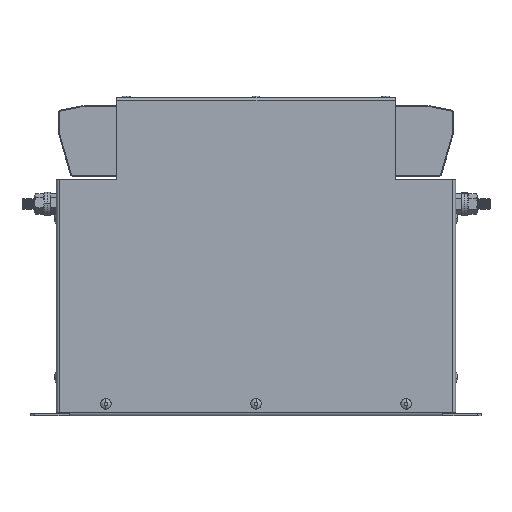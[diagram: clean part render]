
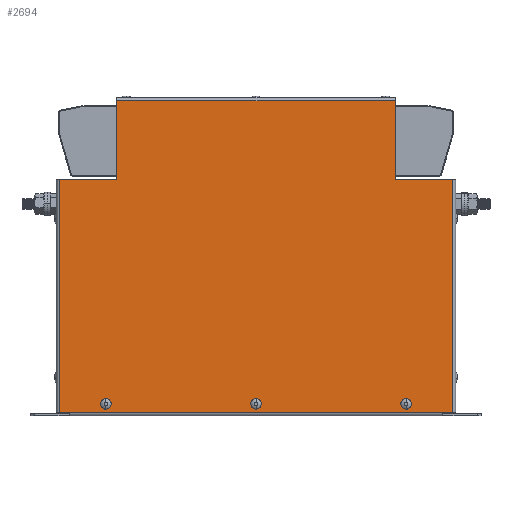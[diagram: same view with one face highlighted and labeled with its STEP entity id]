
A CAD part, top view. The second image highlights one B-rep face of the part: STEP entity #2694.
In plain terms, the highlighted planar face has unit normal (0, 0, 1).
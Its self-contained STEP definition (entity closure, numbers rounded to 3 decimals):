
#31 = FACE_BOUND ( 'NONE', #7901, .T. ) ;
#442 = FACE_OUTER_BOUND ( 'NONE', #16042, .T. ) ;
#822 = EDGE_CURVE ( 'NONE', #2332, #8259, #2920, .T. ) ;
#1026 = ORIENTED_EDGE ( 'NONE', *, *, #3641, .T. ) ;
#1053 = ORIENTED_EDGE ( 'NONE', *, *, #8649, .T. ) ;
#1114 = EDGE_CURVE ( 'NONE', #1203, #15948, #4770, .T. ) ;
#1140 = VERTEX_POINT ( 'NONE', #2085 ) ;
#1203 = VERTEX_POINT ( 'NONE', #12878 ) ;
#1769 = VERTEX_POINT ( 'NONE', #9784 ) ;
#1949 = DIRECTION ( 'NONE',  ( 0., 0., -1. ) ) ;
#1962 = CARTESIAN_POINT ( 'NONE',  ( 111.8, 43.55, 0. ) ) ;
#2085 = CARTESIAN_POINT ( 'NONE',  ( 78.8, 43.55, 0. ) ) ;
#2265 = EDGE_CURVE ( 'NONE', #10323, #1769, #3110, .T. ) ;
#2332 = VERTEX_POINT ( 'NONE', #13729 ) ;
#2523 = CARTESIAN_POINT ( 'NONE',  ( -82.25, -83.55, 0. ) ) ;
#2572 = CARTESIAN_POINT ( 'NONE',  ( 0., -83.55, 0. ) ) ;
#2621 = AXIS2_PLACEMENT_3D ( 'NONE', #11075, #11129, #12517 ) ;
#2694 = ADVANCED_FACE ( 'NONE', ( #10888, #31, #6542, #442 ), #9834, .T. ) ;
#2920 = LINE ( 'NONE', #7978, #15265 ) ;
#3075 = LINE ( 'NONE', #13475, #7745 ) ;
#3095 = CARTESIAN_POINT ( 'NONE',  ( -78.8, 88.05, 0. ) ) ;
#3110 = CIRCLE ( 'NONE', #6968, 2.75 ) ;
#3203 = CIRCLE ( 'NONE', #4906, 2.75 ) ;
#3334 = DIRECTION ( 'NONE',  ( 1., 0., 0. ) ) ;
#3402 = VECTOR ( 'NONE', #5319, 1000. ) ;
#3445 = EDGE_LOOP ( 'NONE', ( #11752, #4489 ) ) ;
#3641 = EDGE_CURVE ( 'NONE', #9114, #7742, #10858, .T. ) ;
#3793 = CARTESIAN_POINT ( 'NONE',  ( -111.3, 43.55, 0. ) ) ;
#3809 = AXIS2_PLACEMENT_3D ( 'NONE', #15246, #8462, #3334 ) ;
#3828 = LINE ( 'NONE', #6472, #9748 ) ;
#3976 = DIRECTION ( 'NONE',  ( 1., 0., 0. ) ) ;
#4088 = AXIS2_PLACEMENT_3D ( 'NONE', #9518, #8252, #13593 ) ;
#4141 = VERTEX_POINT ( 'NONE', #16495 ) ;
#4489 = ORIENTED_EDGE ( 'NONE', *, *, #1114, .T. ) ;
#4640 = DIRECTION ( 'NONE',  ( 1., 0., 0. ) ) ;
#4770 = CIRCLE ( 'NONE', #3809, 2.75 ) ;
#4800 = CARTESIAN_POINT ( 'NONE',  ( -87.75, -83.55, 0. ) ) ;
#4822 = ORIENTED_EDGE ( 'NONE', *, *, #8080, .T. ) ;
#4906 = AXIS2_PLACEMENT_3D ( 'NONE', #10952, #5785, #16383 ) ;
#5075 = VECTOR ( 'NONE', #4640, 1000. ) ;
#5319 = DIRECTION ( 'NONE',  ( 0., 1., 0. ) ) ;
#5351 = DIRECTION ( 'NONE',  ( 0., 0., -1. ) ) ;
#5580 = DIRECTION ( 'NONE',  ( 0., -1., 0. ) ) ;
#5614 = CARTESIAN_POINT ( 'NONE',  ( -111.8, -88.55, 0. ) ) ;
#5630 = CIRCLE ( 'NONE', #4088, 2.75 ) ;
#5781 = VERTEX_POINT ( 'NONE', #8823 ) ;
#5785 = DIRECTION ( 'NONE',  ( 0., 0., -1. ) ) ;
#6472 = CARTESIAN_POINT ( 'NONE',  ( -111.8, 43.55, 0. ) ) ;
#6542 = FACE_BOUND ( 'NONE', #3445, .T. ) ;
#6676 = DIRECTION ( 'NONE',  ( -1., 0., 0. ) ) ;
#6952 = CIRCLE ( 'NONE', #12934, 2.75 ) ;
#6968 = AXIS2_PLACEMENT_3D ( 'NONE', #15054, #1949, #16550 ) ;
#6998 = LINE ( 'NONE', #5614, #14038 ) ;
#7542 = ORIENTED_EDGE ( 'NONE', *, *, #16971, .T. ) ;
#7742 = VERTEX_POINT ( 'NONE', #16847 ) ;
#7745 = VECTOR ( 'NONE', #5580, 1000. ) ;
#7771 = CARTESIAN_POINT ( 'NONE',  ( -78.8, 88.55, 0. ) ) ;
#7793 = VECTOR ( 'NONE', #10351, 1000. ) ;
#7901 = EDGE_LOOP ( 'NONE', ( #1053, #14965 ) ) ;
#7926 = VECTOR ( 'NONE', #8761, 1000. ) ;
#7978 = CARTESIAN_POINT ( 'NONE',  ( 78.8, 88.05, 0. ) ) ;
#8080 = EDGE_CURVE ( 'NONE', #14522, #10981, #6952, .T. ) ;
#8252 = DIRECTION ( 'NONE',  ( 0., 0., -1. ) ) ;
#8259 = VERTEX_POINT ( 'NONE', #3095 ) ;
#8443 = ORIENTED_EDGE ( 'NONE', *, *, #9423, .F. ) ;
#8462 = DIRECTION ( 'NONE',  ( 0., 0., -1. ) ) ;
#8649 = EDGE_CURVE ( 'NONE', #1769, #10323, #14173, .T. ) ;
#8663 = VERTEX_POINT ( 'NONE', #10630 ) ;
#8761 = DIRECTION ( 'NONE',  ( 0., -1., 0. ) ) ;
#8762 = EDGE_CURVE ( 'NONE', #2332, #1140, #3075, .T. ) ;
#8823 = CARTESIAN_POINT ( 'NONE',  ( 111.3, -88.55, 0. ) ) ;
#9114 = VERTEX_POINT ( 'NONE', #9320 ) ;
#9320 = CARTESIAN_POINT ( 'NONE',  ( -111.3, 43.55, 0. ) ) ;
#9336 = ORIENTED_EDGE ( 'NONE', *, *, #8762, .F. ) ;
#9423 = EDGE_CURVE ( 'NONE', #1140, #4141, #16833, .T. ) ;
#9518 = CARTESIAN_POINT ( 'NONE',  ( 85., -83.55, 0. ) ) ;
#9574 = AXIS2_PLACEMENT_3D ( 'NONE', #2572, #5351, #14567 ) ;
#9748 = VECTOR ( 'NONE', #3976, 1000. ) ;
#9784 = CARTESIAN_POINT ( 'NONE',  ( 2.75, -83.55, 0. ) ) ;
#9834 = PLANE ( 'NONE',  #2621 ) ;
#10323 = VERTEX_POINT ( 'NONE', #12476 ) ;
#10351 = DIRECTION ( 'NONE',  ( 0., 1., 0. ) ) ;
#10630 = CARTESIAN_POINT ( 'NONE',  ( -78.8, 43.55, 0. ) ) ;
#10647 = DIRECTION ( 'NONE',  ( 1., 0., 0. ) ) ;
#10779 = DIRECTION ( 'NONE',  ( 1., 0., 0. ) ) ;
#10854 = EDGE_CURVE ( 'NONE', #10981, #14522, #3203, .T. ) ;
#10858 = LINE ( 'NONE', #3793, #7926 ) ;
#10888 = FACE_BOUND ( 'NONE', #12459, .T. ) ;
#10952 = CARTESIAN_POINT ( 'NONE',  ( -85., -83.55, 0. ) ) ;
#10981 = VERTEX_POINT ( 'NONE', #4800 ) ;
#11075 = CARTESIAN_POINT ( 'NONE',  ( 0., 0., 0. ) ) ;
#11129 = DIRECTION ( 'NONE',  ( 0., 0., 1. ) ) ;
#11380 = ORIENTED_EDGE ( 'NONE', *, *, #822, .T. ) ;
#11752 = ORIENTED_EDGE ( 'NONE', *, *, #14733, .T. ) ;
#11874 = CARTESIAN_POINT ( 'NONE',  ( 87.75, -83.55, 0. ) ) ;
#12435 = ORIENTED_EDGE ( 'NONE', *, *, #13314, .F. ) ;
#12459 = EDGE_LOOP ( 'NONE', ( #4822, #14249 ) ) ;
#12476 = CARTESIAN_POINT ( 'NONE',  ( -2.75, -83.55, 0. ) ) ;
#12517 = DIRECTION ( 'NONE',  ( 1., 0., 0. ) ) ;
#12620 = EDGE_CURVE ( 'NONE', #7742, #5781, #6998, .T. ) ;
#12804 = ORIENTED_EDGE ( 'NONE', *, *, #12620, .T. ) ;
#12878 = CARTESIAN_POINT ( 'NONE',  ( 82.25, -83.55, 0. ) ) ;
#12934 = AXIS2_PLACEMENT_3D ( 'NONE', #14819, #16139, #10647 ) ;
#13044 = CARTESIAN_POINT ( 'NONE',  ( 111.3, -88.55, 0. ) ) ;
#13314 = EDGE_CURVE ( 'NONE', #9114, #8663, #3828, .T. ) ;
#13475 = CARTESIAN_POINT ( 'NONE',  ( 78.8, 88.55, 0. ) ) ;
#13593 = DIRECTION ( 'NONE',  ( 1., 0., 0. ) ) ;
#13729 = CARTESIAN_POINT ( 'NONE',  ( 78.8, 88.05, 0. ) ) ;
#13884 = EDGE_CURVE ( 'NONE', #8663, #8259, #15961, .T. ) ;
#14038 = VECTOR ( 'NONE', #10779, 1000. ) ;
#14173 = CIRCLE ( 'NONE', #9574, 2.75 ) ;
#14249 = ORIENTED_EDGE ( 'NONE', *, *, #10854, .T. ) ;
#14522 = VERTEX_POINT ( 'NONE', #2523 ) ;
#14567 = DIRECTION ( 'NONE',  ( 1., 0., 0. ) ) ;
#14733 = EDGE_CURVE ( 'NONE', #15948, #1203, #5630, .T. ) ;
#14819 = CARTESIAN_POINT ( 'NONE',  ( -85., -83.55, 0. ) ) ;
#14965 = ORIENTED_EDGE ( 'NONE', *, *, #2265, .T. ) ;
#15054 = CARTESIAN_POINT ( 'NONE',  ( 0., -83.55, 0. ) ) ;
#15246 = CARTESIAN_POINT ( 'NONE',  ( 85., -83.55, 0. ) ) ;
#15265 = VECTOR ( 'NONE', #6676, 1000. ) ;
#15948 = VERTEX_POINT ( 'NONE', #11874 ) ;
#15961 = LINE ( 'NONE', #7771, #3402 ) ;
#16042 = EDGE_LOOP ( 'NONE', ( #12435, #1026, #12804, #7542, #8443, #9336, #11380, #16456 ) ) ;
#16139 = DIRECTION ( 'NONE',  ( 0., 0., -1. ) ) ;
#16383 = DIRECTION ( 'NONE',  ( 1., 0., 0. ) ) ;
#16456 = ORIENTED_EDGE ( 'NONE', *, *, #13884, .F. ) ;
#16495 = CARTESIAN_POINT ( 'NONE',  ( 111.3, 43.55, 0. ) ) ;
#16550 = DIRECTION ( 'NONE',  ( 1., 0., 0. ) ) ;
#16833 = LINE ( 'NONE', #1962, #5075 ) ;
#16847 = CARTESIAN_POINT ( 'NONE',  ( -111.3, -88.55, 0. ) ) ;
#16907 = LINE ( 'NONE', #13044, #7793 ) ;
#16971 = EDGE_CURVE ( 'NONE', #5781, #4141, #16907, .T. ) ;
